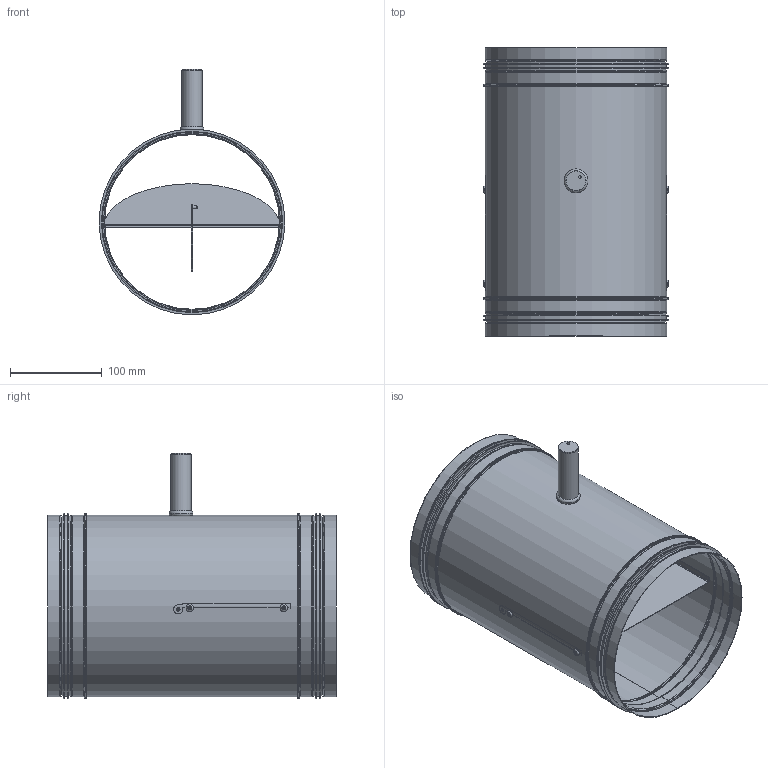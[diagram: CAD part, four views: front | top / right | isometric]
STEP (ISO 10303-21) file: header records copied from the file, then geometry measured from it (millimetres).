
FILE_DESCRIPTION(/* description */ ('540_125x100_VRK-N'),/* implementation_level */ '2;1');
FILE_NAME(/* name */ '233_200_VRK.stp',/* time_stamp */ '2024-05-13T06:27:00+02:00',/* author */ ('bonsen'),/* organization */ ('Aerotechnik E. Siegwart GmbH'),/* preprocessor_version */ 'ST-DEVELOPER v20',/* originating_system */ 'Autodesk Inventor 2024',/* authorisation */ '');
FILE_SCHEMA (('AUTOMOTIVE_DESIGN { 1 0 10303 214 3 1 1 }'));
Length unit declared in the file: millimetre
Products named in the file (5): 540_125x100_VRK-N; Rohrkörper; Daempferplatte; Verstelleinheit; Lippengummi
Assembly tree (5 placements, depth 2):
  540_125x100_VRK-N
    Rohrkörper
    Daempferplatte
    Verstelleinheit
    Lippengummi  x2
Bounding box: 203 x 315 x 268.5 mm (x, y, z)
Volume: 229141.7 mm3; surface area: 570955.5 mm2
Topology: 7 solids, 7 shells, 258 faces, 536 edges, 300 vertices
Faces by surface type: plane 151, cylinder 62, torus 42, bspline 2, cone 1
Full cylindrical faces by diameter (mm): 2 x5, 3 x2, 4 x2, 8 x4, 21.5 x1, 22 x1, 26 x1, 190.74 x2, 192 x2, 193 x2, 196.74 x5, 197 x6, 198 x5, 200.74 x2, 202 x2, 203 x4
Entity records: 6810 total; most frequent: DIRECTION 1264, CARTESIAN_POINT 1191, ORIENTED_EDGE 1036, EDGE_CURVE 518, AXIS2_PLACEMENT_3D 502, VERTEX_POINT 288, EDGE_LOOP 264, LINE 260
